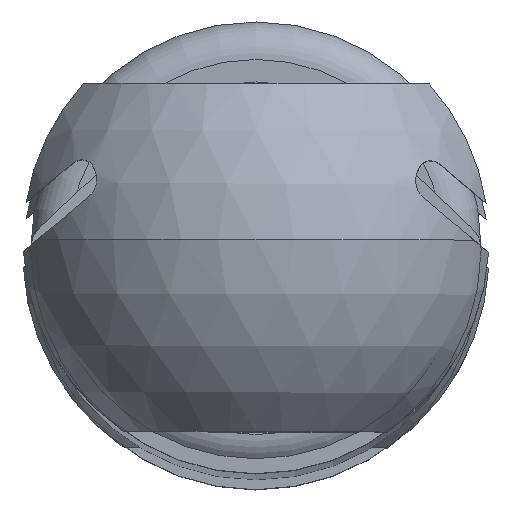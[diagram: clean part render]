
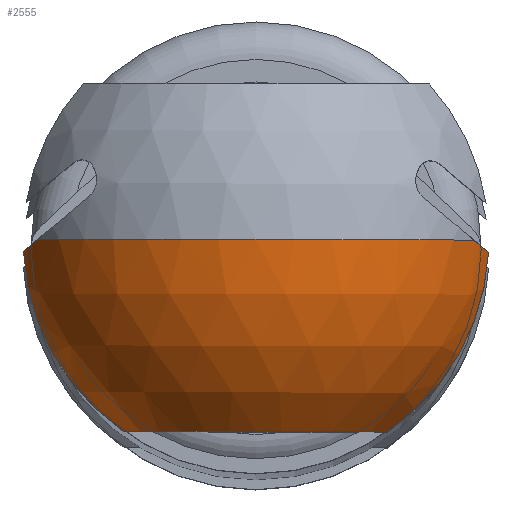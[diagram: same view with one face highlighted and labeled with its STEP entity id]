
A CAD part, top view. The second image highlights one B-rep face of the part: STEP entity #2555.
In plain terms, the highlighted spherical face has radius 8.25 mm.
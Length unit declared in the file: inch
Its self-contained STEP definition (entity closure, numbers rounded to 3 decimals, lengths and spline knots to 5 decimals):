
#77 = CARTESIAN_POINT ( 'NONE',  ( -2.75591, -0.11808, -0.14072 ) ) ;
#203 = DIRECTION ( 'NONE',  ( 0., -0.766, 0.643 ) ) ;
#211 = DIRECTION ( 'NONE',  ( 0., 0.643, 0.766 ) ) ;
#677 = FACE_OUTER_BOUND ( 'NONE', #1682, .T. ) ;
#685 = SPHERICAL_SURFACE ( 'NONE', #3780, 0.3248 ) ;
#891 = CARTESIAN_POINT ( 'NONE',  ( -3.08071, 0., 0. ) ) ;
#907 = DIRECTION ( 'NONE',  ( 0., 0., -1. ) ) ;
#943 = CARTESIAN_POINT ( 'NONE',  ( -2.75591, 0., 0. ) ) ;
#964 = CARTESIAN_POINT ( 'NONE',  ( -2.86614, 0.17279, 0.25197 ) ) ;
#1043 = DIRECTION ( 'NONE',  ( 0., 0., -1. ) ) ;
#1055 = CARTESIAN_POINT ( 'NONE',  ( -2.86614, 0.30509, 0.01621 ) ) ;
#1089 = CARTESIAN_POINT ( 'NONE',  ( -2.86614, -0.30509, 0.01621 ) ) ;
#1119 = DIRECTION ( 'NONE',  ( -1., 0., 0. ) ) ;
#1123 = CARTESIAN_POINT ( 'NONE',  ( -2.86614, 0., 0. ) ) ;
#1126 = DIRECTION ( 'NONE',  ( -1., 0., 0. ) ) ;
#1127 = DIRECTION ( 'NONE',  ( 0., 0., -1. ) ) ;
#1133 = DIRECTION ( 'NONE',  ( 1., 0., 0. ) ) ;
#1222 = DIRECTION ( 'NONE',  ( 0., 0., -1. ) ) ;
#1227 = DIRECTION ( 'NONE',  ( 1., 0., 0. ) ) ;
#1241 = DIRECTION ( 'NONE',  ( 0., 0., 1. ) ) ;
#1243 = CARTESIAN_POINT ( 'NONE',  ( -2.75591, 0., 0. ) ) ;
#1263 = DIRECTION ( 'NONE',  ( 0., -1., 0. ) ) ;
#1284 = CARTESIAN_POINT ( 'NONE',  ( -2.86614, 0., 0. ) ) ;
#1292 = DIRECTION ( 'NONE',  ( -1., 0., 0. ) ) ;
#1293 = DIRECTION ( 'NONE',  ( 0., 0., -1. ) ) ;
#1312 = CARTESIAN_POINT ( 'NONE',  ( -2.75591, 0., 0. ) ) ;
#1324 = CARTESIAN_POINT ( 'NONE',  ( -2.75591, 0., 0.25197 ) ) ;
#1496 = VERTEX_POINT ( 'NONE', #3552 ) ;
#1500 = VERTEX_POINT ( 'NONE', #3528 ) ;
#1662 = VERTEX_POINT ( 'NONE', #3703 ) ;
#1682 = EDGE_LOOP ( 'NONE', ( #4581, #4424, #4606, #4351, #4695, #4449, #4626 ) ) ;
#1717 = VERTEX_POINT ( 'NONE', #891 ) ;
#1756 = VERTEX_POINT ( 'NONE', #1089 ) ;
#1806 = VERTEX_POINT ( 'NONE', #1055 ) ;
#1848 = VERTEX_POINT ( 'NONE', #964 ) ;
#2391 = EDGE_CURVE ( 'NONE', #1756, #1662, #2636, .T. ) ;
#2421 = EDGE_CURVE ( 'NONE', #1717, #1500, #2672, .T. ) ;
#2465 = EDGE_CURVE ( 'NONE', #1848, #1806, #2637, .T. ) ;
#2467 = EDGE_CURVE ( 'NONE', #1717, #1496, #2766, .T. ) ;
#2490 = EDGE_CURVE ( 'NONE', #1662, #1848, #2642, .T. ) ;
#2555 = ADVANCED_FACE ( 'NONE', ( #677 ), #685, .T. ) ;
#2636 = CIRCLE ( 'NONE', #2718, 0.30552 ) ;
#2637 = CIRCLE ( 'NONE', #2790, 0.30552 ) ;
#2642 = CIRCLE ( 'NONE', #2721, 0.20496 ) ;
#2672 = CIRCLE ( 'NONE', #2744, 0.3248 ) ;
#2716 = AXIS2_PLACEMENT_3D ( 'NONE', #943, #1222, #1119 ) ;
#2718 = AXIS2_PLACEMENT_3D ( 'NONE', #1123, #1126, #1127 ) ;
#2721 = AXIS2_PLACEMENT_3D ( 'NONE', #1324, #1043, #1133 ) ;
#2744 = AXIS2_PLACEMENT_3D ( 'NONE', #1243, #1241, #1227 ) ;
#2766 = CIRCLE ( 'NONE', #2716, 0.3248 ) ;
#2790 = AXIS2_PLACEMENT_3D ( 'NONE', #1284, #1292, #907 ) ;
#2804 = AXIS2_PLACEMENT_3D ( 'NONE', #5000, #5001, #5002 ) ;
#2828 = CIRCLE ( 'NONE', #2804, 0.26787 ) ;
#2893 = CIRCLE ( 'NONE', #2914, 0.26787 ) ;
#2914 = AXIS2_PLACEMENT_3D ( 'NONE', #77, #211, #203 ) ;
#3282 = EDGE_CURVE ( 'NONE', #1500, #1756, #2893, .T. ) ;
#3340 = EDGE_CURVE ( 'NONE', #1806, #1496, #2828, .T. ) ;
#3528 = CARTESIAN_POINT ( 'NONE',  ( -2.91027, -0.28578, 0. ) ) ;
#3552 = CARTESIAN_POINT ( 'NONE',  ( -2.91027, 0.28578, 0. ) ) ;
#3703 = CARTESIAN_POINT ( 'NONE',  ( -2.86614, -0.17279, 0.25197 ) ) ;
#3780 = AXIS2_PLACEMENT_3D ( 'NONE', #1312, #1293, #1263 ) ;
#4351 = ORIENTED_EDGE ( 'NONE', *, *, #2391, .T. ) ;
#4424 = ORIENTED_EDGE ( 'NONE', *, *, #2421, .T. ) ;
#4449 = ORIENTED_EDGE ( 'NONE', *, *, #2465, .T. ) ;
#4581 = ORIENTED_EDGE ( 'NONE', *, *, #2467, .F. ) ;
#4606 = ORIENTED_EDGE ( 'NONE', *, *, #3282, .T. ) ;
#4626 = ORIENTED_EDGE ( 'NONE', *, *, #3340, .T. ) ;
#4695 = ORIENTED_EDGE ( 'NONE', *, *, #2490, .T. ) ;
#5000 = CARTESIAN_POINT ( 'NONE',  ( -2.75591, 0.11808, -0.14072 ) ) ;
#5001 = DIRECTION ( 'NONE',  ( 0., -0.643, 0.766 ) ) ;
#5002 = DIRECTION ( 'NONE',  ( 0., -0.766, -0.643 ) ) ;
